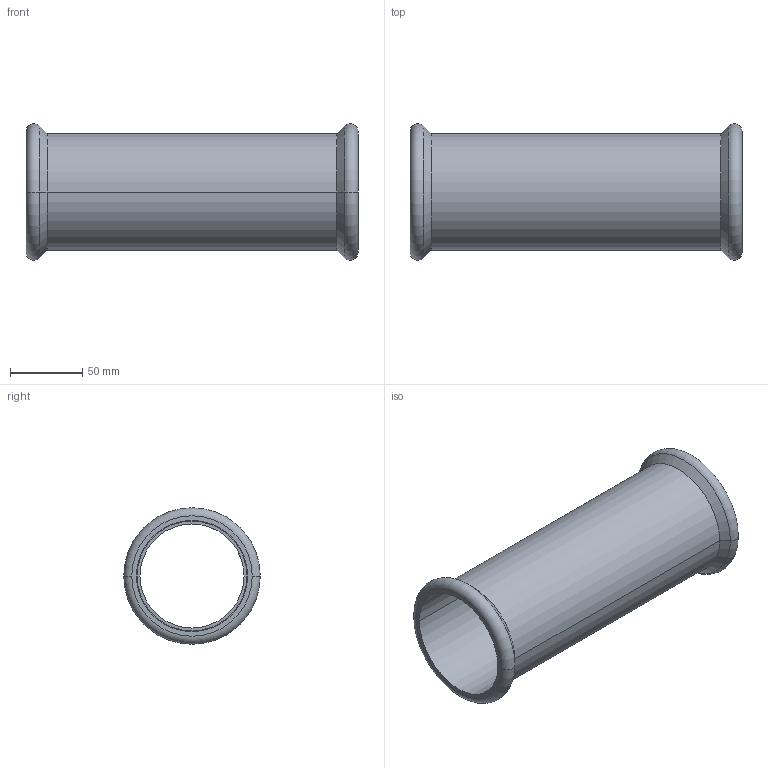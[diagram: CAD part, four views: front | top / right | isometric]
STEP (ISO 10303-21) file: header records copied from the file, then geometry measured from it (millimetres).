
FILE_DESCRIPTION(('CoCreate Modeling STEP Export'),'2;1');
FILE_NAME('C1403 76.1x76.1.stp','2014-11-07T14:08:25',(''),(''),'CoCreate Modeling STEP processor for AP214 (Solid Model)','CoCreate Modeling 17.00A 17-Jun-2010 (C) Parametric Technology GmbH','');
FILE_SCHEMA(('AUTOMOTIVE_DESIGN { 1 0 10303 214 1 1 1 1 }'));
Length unit declared in the file: millimetre
Products named in the file (2): C1403_76x76
Assembly tree (1 placements, depth 2):
  C1403_76x76
    C1403_76x76
Bounding box: 230 x 94.48 x 94.48 mm (x, y, z)
Volume: 217406.9 mm3; surface area: 119520.4 mm2
Topology: 1 solids, 1 shells, 26 faces, 54 edges, 34 vertices
Faces by surface type: cylinder 12, plane 6, cone 4, torus 4
Entity records: 617 total; most frequent: ORIENTED_EDGE 108, DIRECTION 92, CARTESIAN_POINT 88, EDGE_CURVE 54, AXIS2_PLACEMENT_3D 38, VERTEX_POINT 34, EDGE_LOOP 32, FACE_OUTER_BOUND 26
